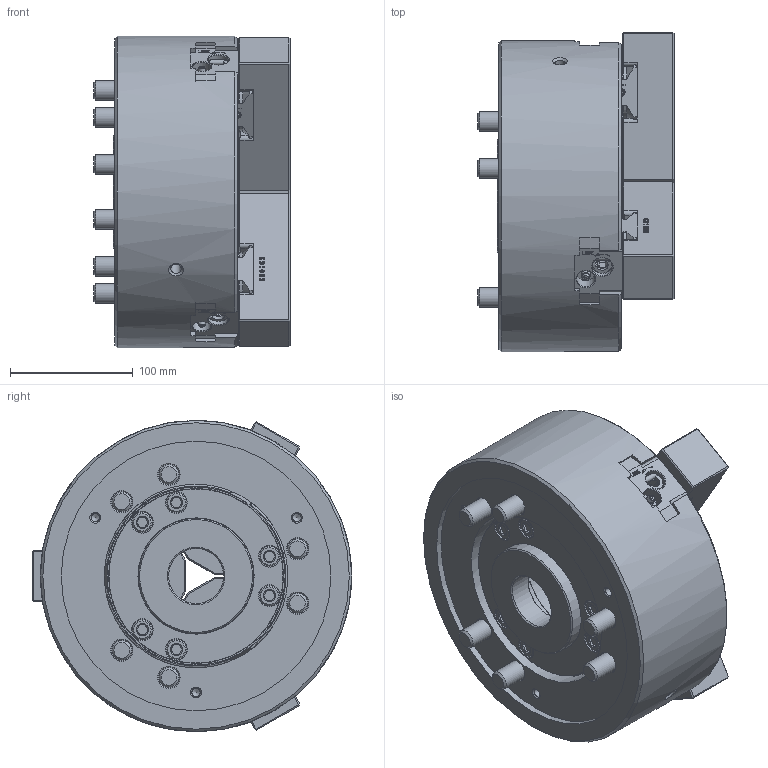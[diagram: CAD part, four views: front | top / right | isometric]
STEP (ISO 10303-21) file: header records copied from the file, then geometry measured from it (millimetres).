
FILE_DESCRIPTION (( 'STEP AP214' ), '1' );
FILE_NAME ('DT1_QB310_OUTSIDE_VIEW_HOL.STEP', '2024-05-16T00:50:39', ( '' ), ( '' ), 'SwSTEP 2.0', 'SolidWorks 2022', '' );
FILE_SCHEMA (( 'AUTOMOTIVE_DESIGN' ));
Length unit declared in the file: millimetre
Products named in the file (7): DT1_QB310_M6x10^DT1_QB310_ﾃﾞﾌｫﾙﾄ; DT1_QB310_COVER^DT1_QB310_ﾃﾞﾌｫﾙﾄ; DT1_QB310_OUTSIDE_VIEW_HOL; DT1_QB310_SOFTJAW^DT1_QB310_ﾃﾞﾌｫﾙﾄ; DT1_QB310_DRAWNUT^DT1_QB310_ﾃﾞﾌｫﾙﾄ; DT1_QB310_BASE^DT1_QB310_閉端; DT1_QB310_M16x100^DT1_QB310_ﾃﾞﾌｫﾙﾄ
Assembly tree (15 placements, depth 2):
  DT1_QB310_OUTSIDE_VIEW_HOL
    DT1_QB310_SOFTJAW^DT1_QB310_ﾃﾞﾌｫﾙﾄ  x3
    DT1_QB310_DRAWNUT^DT1_QB310_ﾃﾞﾌｫﾙﾄ
    DT1_QB310_COVER^DT1_QB310_ﾃﾞﾌｫﾙﾄ
    DT1_QB310_M6x10^DT1_QB310_ﾃﾞﾌｫﾙﾄ  x3
    DT1_QB310_M16x100^DT1_QB310_ﾃﾞﾌｫﾙﾄ  x6
    DT1_QB310_BASE^DT1_QB310_閉端
Bounding box: 160 x 260.63 x 254 mm (x, y, z)
Volume: 5044938.9 mm3; surface area: 475407.1 mm2
Topology: 15 solids, 15 shells, 2300 faces, 6011 edges, 3902 vertices
Faces by surface type: plane 1217, bspline 510, cylinder 267, cone 258, torus 42, sphere 6
Full cylindrical faces by diameter (mm): 2 x3, 4.5 x3, 5 x9, 6 x6, 6.6 x3, 6.8 x3, 8 x3, 8.5 x2, 10 x3, 10.001 x9, 10.5 x3, 11 x3, 13 x6, 15 x3, 16 x6, 16.27 x6, 16.3 x3, 16.5 x3, 16.7 x3, 17 x12, 18 x6, 24.33 x6, 25 x6, 45 x1, 75 x2, 79 x2, 80 x2, 86 x1, 94 x2, 142.7 x1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
Entity records: 70005 total; most frequent: CARTESIAN_POINT 29743, ORIENTED_EDGE 8782, DIRECTION 6865, EDGE_CURVE 4391, VERTEX_POINT 2970, VECTOR 2383, LINE 2383, AXIS2_PLACEMENT_3D 2241
